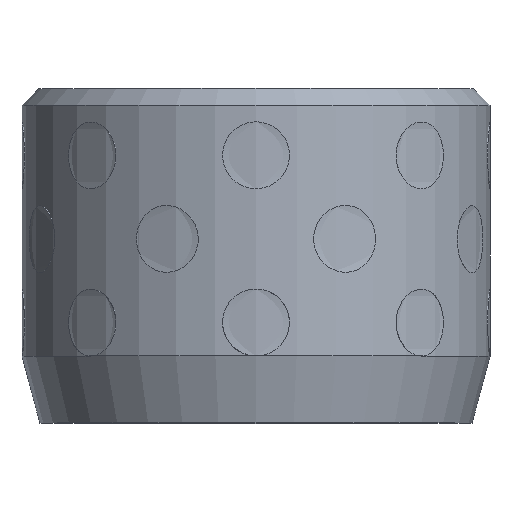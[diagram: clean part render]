
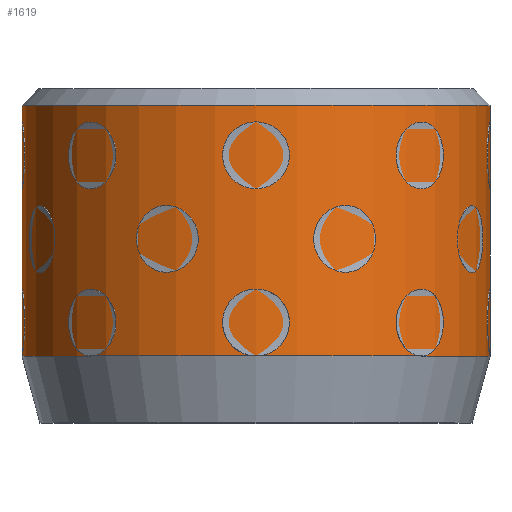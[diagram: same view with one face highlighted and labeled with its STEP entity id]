
A CAD part, top view. The second image highlights one B-rep face of the part: STEP entity #1619.
In plain terms, the highlighted cylindrical face has radius 14 mm (diameter 28 mm), a full revolution.
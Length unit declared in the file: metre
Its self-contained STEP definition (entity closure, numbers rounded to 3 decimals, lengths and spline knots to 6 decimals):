
#1619 = ADVANCED_FACE( '', ( #1737, #1738 ), #1739, .T. );
#1737 = FACE_OUTER_BOUND( '', #1985, .T. );
#1738 = FACE_OUTER_BOUND( '', #1986, .T. );
#1739 = CYLINDRICAL_SURFACE( '', #1987, 0.014 );
#1985 = EDGE_LOOP( '', ( #2245 ) );
#1986 = EDGE_LOOP( '', ( #2246 ) );
#1987 = AXIS2_PLACEMENT_3D( '', #2247, #2248, #2249 );
#2245 = ORIENTED_EDGE( '', *, *, #2678, .T. );
#2246 = ORIENTED_EDGE( '', *, *, #2677, .F. );
#2247 = CARTESIAN_POINT( '', ( 0., 0., 0. ) );
#2248 = DIRECTION( '', ( 0., 1., 0. ) );
#2249 = DIRECTION( '', ( 0., 0., -1. ) );
#2677 = EDGE_CURVE( '', #2755, #2755, #2756, .T. );
#2678 = EDGE_CURVE( '', #2757, #2757, #2758, .T. );
#2755 = VERTEX_POINT( '', #2899 );
#2756 = CIRCLE( '', #2900, 0.014 );
#2757 = VERTEX_POINT( '', #2901 );
#2758 = CIRCLE( '', #2902, 0.014 );
#2899 = CARTESIAN_POINT( '', ( 0., 0.004, -0.014 ) );
#2900 = AXIS2_PLACEMENT_3D( '', #6441, #6442, #6443 );
#2901 = CARTESIAN_POINT( '', ( 0., 0.019, -0.014 ) );
#2902 = AXIS2_PLACEMENT_3D( '', #6444, #6445, #6446 );
#6441 = CARTESIAN_POINT( '', ( 0., 0.004, 0. ) );
#6442 = DIRECTION( '', ( 0., -1., 0. ) );
#6443 = DIRECTION( '', ( 0., 0., -1. ) );
#6444 = CARTESIAN_POINT( '', ( 0., 0.019, 0. ) );
#6445 = DIRECTION( '', ( 0., -1., 0. ) );
#6446 = DIRECTION( '', ( 0., 0., -1. ) );
